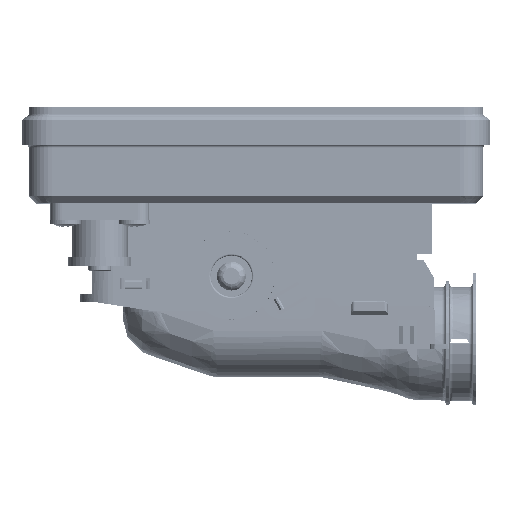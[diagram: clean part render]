
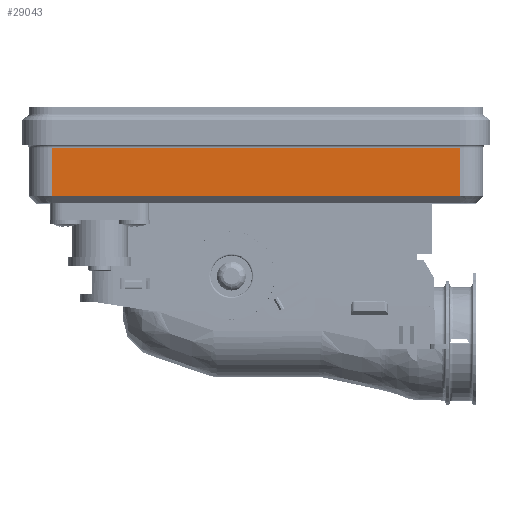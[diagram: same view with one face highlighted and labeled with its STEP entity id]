
A CAD part, left-side view. The second image highlights one B-rep face of the part: STEP entity #29043.
In plain terms, the highlighted planar face has unit normal (1, 0, 0).
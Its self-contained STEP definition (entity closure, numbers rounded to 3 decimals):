
#29016=AXIS2_PLACEMENT_3D('Plane Axis2P3D',#29013,#29014,#29015) ;
#28898=CARTESIAN_POINT('Vertex',(-31.6,62.131,1.6)) ;
#28901=CARTESIAN_POINT('Line Origine',(-31.6,62.131,-5.1)) ;
#28905=CARTESIAN_POINT('Vertex',(-31.6,62.131,-13.1)) ;
#29013=CARTESIAN_POINT('Axis2P3D Location',(-31.6,62.131,0.)) ;
#29018=CARTESIAN_POINT('Line Origine',(-31.6,0.006,1.6)) ;
#29022=CARTESIAN_POINT('Vertex',(-31.6,-62.119,1.6)) ;
#29025=CARTESIAN_POINT('Line Origine',(-31.6,-62.119,-5.1)) ;
#29029=CARTESIAN_POINT('Vertex',(-31.6,-62.119,-13.1)) ;
#29032=CARTESIAN_POINT('Line Origine',(-31.6,0.006,-13.1)) ;
#28902=DIRECTION('Vector Direction',(0.,0.,1.)) ;
#29014=DIRECTION('Axis2P3D Direction',(-1.,0.,0.)) ;
#29015=DIRECTION('Axis2P3D XDirection',(0.,-1.,0.)) ;
#29019=DIRECTION('Vector Direction',(0.,-1.,0.)) ;
#29026=DIRECTION('Vector Direction',(0.,0.,1.)) ;
#29033=DIRECTION('Vector Direction',(0.,-1.,0.)) ;
#28903=VECTOR('Line Direction',#28902,1.) ;
#29020=VECTOR('Line Direction',#29019,1.) ;
#29027=VECTOR('Line Direction',#29026,1.) ;
#29034=VECTOR('Line Direction',#29033,1.) ;
#29038=ORIENTED_EDGE('',*,*,#29024,.F.) ;
#29039=ORIENTED_EDGE('',*,*,#29031,.F.) ;
#29040=ORIENTED_EDGE('',*,*,#29036,.F.) ;
#29041=ORIENTED_EDGE('',*,*,#28907,.T.) ;
#29043=ADVANCED_FACE('Extract.1',(#29042),#29017,.F.) ;
#28907=EDGE_CURVE('',#28906,#28899,#28904,.T.) ;
#29024=EDGE_CURVE('',#29023,#28899,#29021,.F.) ;
#29031=EDGE_CURVE('',#29030,#29023,#29028,.T.) ;
#29036=EDGE_CURVE('',#28906,#29030,#29035,.T.) ;
#29037=EDGE_LOOP('',(#29038,#29039,#29040,#29041)) ;
#29042=FACE_OUTER_BOUND('',#29037,.T.) ;
#28904=LINE('Line',#28901,#28903) ;
#29021=LINE('Line',#29018,#29020) ;
#29028=LINE('Line',#29025,#29027) ;
#29035=LINE('Line',#29032,#29034) ;
#29017=PLANE('Plane',#29016) ;
#28899=VERTEX_POINT('',#28898) ;
#28906=VERTEX_POINT('',#28905) ;
#29023=VERTEX_POINT('',#29022) ;
#29030=VERTEX_POINT('',#29029) ;
